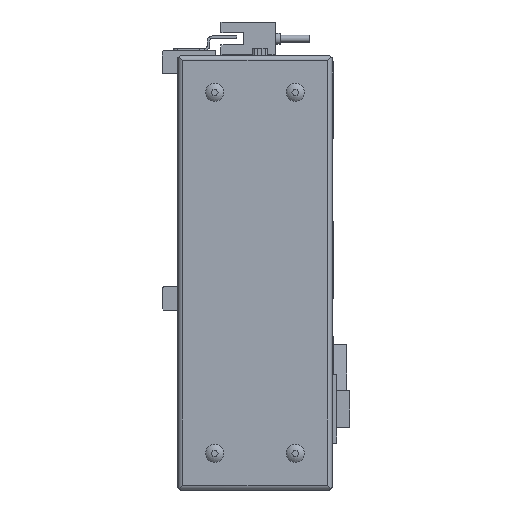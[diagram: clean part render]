
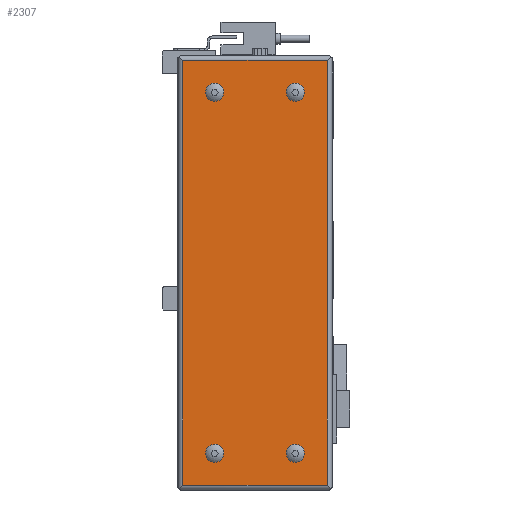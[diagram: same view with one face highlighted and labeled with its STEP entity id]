
A CAD part, left-side view. The second image highlights one B-rep face of the part: STEP entity #2307.
In plain terms, the highlighted planar face has unit normal (-1, 0, 0).
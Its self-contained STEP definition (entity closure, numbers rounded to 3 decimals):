
#2307 = ADVANCED_FACE( '', ( #4692, #4693, #4694, #4695, #4696 ), #4697, .F. );
#4692 = FACE_BOUND( '', #7035, .T. );
#4693 = FACE_BOUND( '', #7036, .T. );
#4694 = FACE_BOUND( '', #7037, .T. );
#4695 = FACE_BOUND( '', #7038, .T. );
#4696 = FACE_OUTER_BOUND( '', #7039, .T. );
#4697 = PLANE( '', #7040 );
#7035 = EDGE_LOOP( '', ( #13434 ) );
#7036 = EDGE_LOOP( '', ( #13435 ) );
#7037 = EDGE_LOOP( '', ( #13436 ) );
#7038 = EDGE_LOOP( '', ( #13437 ) );
#7039 = EDGE_LOOP( '', ( #13438, #13439, #13440, #13441 ) );
#7040 = AXIS2_PLACEMENT_3D( '', #13442, #13443, #13444 );
#13434 = ORIENTED_EDGE( '', *, *, #15957, .F. );
#13435 = ORIENTED_EDGE( '', *, *, #15449, .F. );
#13436 = ORIENTED_EDGE( '', *, *, #15815, .F. );
#13437 = ORIENTED_EDGE( '', *, *, #15240, .F. );
#13438 = ORIENTED_EDGE( '', *, *, #15970, .F. );
#13439 = ORIENTED_EDGE( '', *, *, #15661, .F. );
#13440 = ORIENTED_EDGE( '', *, *, #14199, .T. );
#13441 = ORIENTED_EDGE( '', *, *, #14251, .T. );
#13442 = CARTESIAN_POINT( '', ( -52., 0., 0. ) );
#13443 = DIRECTION( '', ( 1., 0., 0. ) );
#13444 = DIRECTION( '', ( 0., 0., -1. ) );
#14199 = EDGE_CURVE( '', #17234, #17235, #17236, .T. );
#14251 = EDGE_CURVE( '', #17235, #17323, #17325, .T. );
#15240 = EDGE_CURVE( '', #18823, #18823, #18824, .F. );
#15449 = EDGE_CURVE( '', #19090, #19090, #19091, .F. );
#15661 = EDGE_CURVE( '', #17234, #19361, #19362, .T. );
#15815 = EDGE_CURVE( '', #19541, #19541, #19542, .F. );
#15957 = EDGE_CURVE( '', #19697, #19697, #19698, .F. );
#15970 = EDGE_CURVE( '', #19361, #17323, #19711, .T. );
#17234 = VERTEX_POINT( '', #21588 );
#17235 = VERTEX_POINT( '', #21589 );
#17236 = LINE( '', #21590, #21591 );
#17323 = VERTEX_POINT( '', #21712 );
#17325 = LINE( '', #21714, #21715 );
#18823 = VERTEX_POINT( '', #24004 );
#18824 = CIRCLE( '', #24005, 3.7 );
#19090 = VERTEX_POINT( '', #24429 );
#19091 = CIRCLE( '', #24430, 3.7 );
#19361 = VERTEX_POINT( '', #24805 );
#19362 = LINE( '', #24806, #24807 );
#19541 = VERTEX_POINT( '', #25059 );
#19542 = CIRCLE( '', #25060, 3.7 );
#19697 = VERTEX_POINT( '', #25249 );
#19698 = CIRCLE( '', #25250, 3.7 );
#19711 = LINE( '', #25273, #25274 );
#21588 = CARTESIAN_POINT( '', ( -52., 61.5, 49. ) );
#21589 = CARTESIAN_POINT( '', ( -52., 61.5, -124.5 ) );
#21590 = CARTESIAN_POINT( '', ( -52., 61.5, 177.5 ) );
#21591 = VECTOR( '', #26176, 1000. );
#21712 = CARTESIAN_POINT( '', ( -52., 2.5, -124.5 ) );
#21714 = CARTESIAN_POINT( '', ( -52., 177.5, -124.5 ) );
#21715 = VECTOR( '', #26241, 1000. );
#24004 = CARTESIAN_POINT( '', ( -52., 48.5, 32.3 ) );
#24005 = AXIS2_PLACEMENT_3D( '', #27317, #27318, #27319 );
#24429 = CARTESIAN_POINT( '', ( -52., 15.5, 32.3 ) );
#24430 = AXIS2_PLACEMENT_3D( '', #27514, #27515, #27516 );
#24805 = CARTESIAN_POINT( '', ( -52., 2.5, 49. ) );
#24806 = CARTESIAN_POINT( '', ( -52., 177.5, 49. ) );
#24807 = VECTOR( '', #27728, 1000. );
#25059 = CARTESIAN_POINT( '', ( -52., 15.5, -115.2 ) );
#25060 = AXIS2_PLACEMENT_3D( '', #27877, #27878, #27879 );
#25249 = CARTESIAN_POINT( '', ( -52., 48.5, -115.2 ) );
#25250 = AXIS2_PLACEMENT_3D( '', #27965, #27966, #27967 );
#25273 = CARTESIAN_POINT( '', ( -52., 2.5, 177.5 ) );
#25274 = VECTOR( '', #27969, 1000. );
#26176 = DIRECTION( '', ( 0., 0., -1. ) );
#26241 = DIRECTION( '', ( 0., -1., 0. ) );
#27317 = CARTESIAN_POINT( '', ( -52., 48.5, 36. ) );
#27318 = DIRECTION( '', ( 1., 0., 0. ) );
#27319 = DIRECTION( '', ( 0., 0., -1. ) );
#27514 = CARTESIAN_POINT( '', ( -52., 15.5, 36. ) );
#27515 = DIRECTION( '', ( 1., 0., 0. ) );
#27516 = DIRECTION( '', ( 0., 0., -1. ) );
#27728 = DIRECTION( '', ( 0., -1., 0. ) );
#27877 = CARTESIAN_POINT( '', ( -52., 15.5, -111.5 ) );
#27878 = DIRECTION( '', ( 1., 0., 0. ) );
#27879 = DIRECTION( '', ( 0., 0., -1. ) );
#27965 = CARTESIAN_POINT( '', ( -52., 48.5, -111.5 ) );
#27966 = DIRECTION( '', ( 1., 0., 0. ) );
#27967 = DIRECTION( '', ( 0., 0., -1. ) );
#27969 = DIRECTION( '', ( 0., 0., -1. ) );
